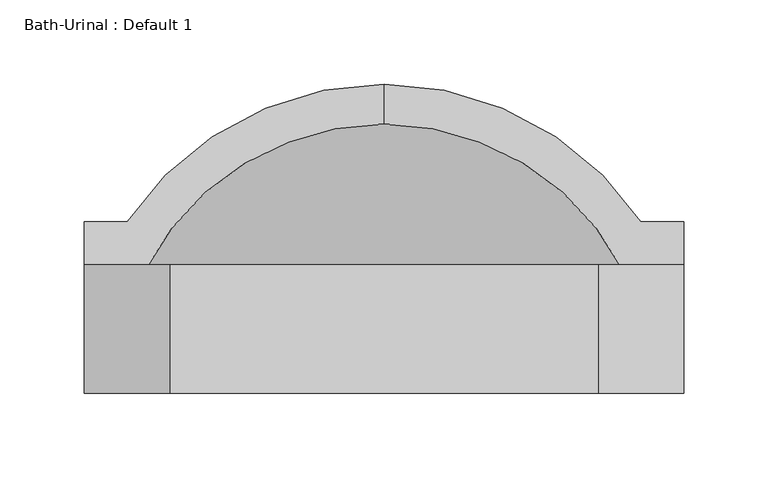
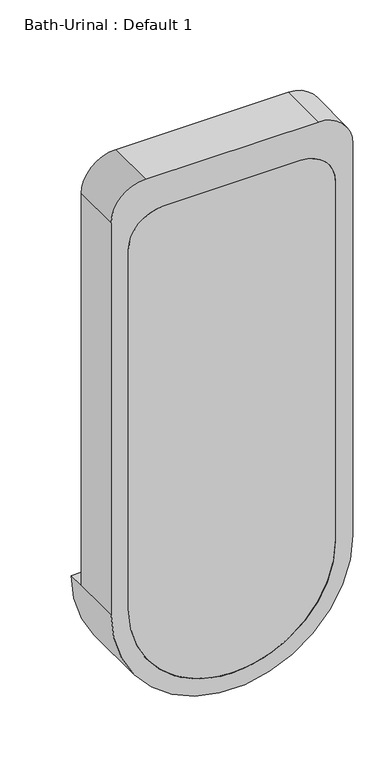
"""IFC4 building model written with IfcOpenShell, lengths in millimetres: flow terminal geometry, Bath-Urinal : Default 1."""

from ifc_helpers import new_model, si_unit, point, frame, frame_2d, origin, place, context, project, spatial, polyline, circle_curve, ellipse_curve, trimmed, segment, composite_curve, outline, extrude, source, transform, mapped, element, save
from ifc_brep_helpers import plane_surface, cylinder_surface, revolved_surface, advanced_brep


def bath_urinal_default_1_75978a72(model_context):
    return source(origin(), model_context, "Body", "SolidModel", [
        advanced_brep(
        [(-109.0745999, 240.3120048, 610.0), (-109.0745999, 216.5947043, 610.0), (43.3254001, 104.0206063, 610.0), (43.3254001, 133.35, 610.0), (68.7254001, 133.35, 610.0), (68.7254001, 158.75, 610.0), (43.3254001, 158.75, 610.0), (-261.4745999, 158.75, 610.0), (-286.8745999, 158.75, 610.0), (-286.8745999, 133.35, 610.0), (-261.4745999, 133.35, 610.0), (-261.4745999, 104.0206063, 610.0), (-261.4745999, 57.15, 610.0), (43.3254001, 57.15, 610.0), (-286.8745999, 57.15, 610.0), (68.7254001, 57.15, 610.0), (68.7254001, 57.15, 1219.6), (17.9254001, 57.15, 1270.4), (-236.0745999, 57.15, 1270.4), (-286.8745999, 57.15, 1219.6), (-261.4745999, 57.15, 1168.8), (-210.6745999, 57.15, 1219.6), (-7.4745999, 57.15, 1219.6), (43.3254001, 57.15, 1168.8), (43.3254001, 133.35, 1168.8), (-7.4745999, 133.35, 1219.6), (-210.6745999, 133.35, 1219.6), (-261.4745999, 133.35, 1168.8), (-286.8745999, 133.35, 1219.6), (-236.0745999, 133.35, 1270.4), (17.9254001, 133.35, 1270.4), (68.7254001, 133.35, 1219.6)],
        [
            (0, 1),
            (1, 2, circle_curve(frame((-109.0745999, 57.15, 610.0), z_axis=(0.0, 0.0, -1.0), x_axis=(1.0, 0.0, 0.0)), 159.4447043)),
            (2, 3),
            (3, 4),
            (4, 5),
            (5, 6),
            (6, 0, circle_curve(frame((-109.0745999, 57.15, 610.0), z_axis=(0.0, 0.0, 1.0), x_axis=(1.0, 0.0, 0.0)), 183.1620048)),
            (0, 7, circle_curve(frame((-109.0745999, 57.15, 610.0), z_axis=(0.0, 0.0, 1.0), x_axis=(-1.0, 0.0, 0.0)), 183.1620048)),
            (7, 8),
            (8, 9),
            (9, 10),
            (10, 11),
            (11, 1, circle_curve(frame((-109.0745999, 57.15, 610.0), z_axis=(0.0, 0.0, -1.0), x_axis=(-1.0, 0.0, 0.0)), 159.4447043)),
            (11, 2, circle_curve(frame((-109.0745999, 104.0206063, 610.0), z_axis=(0.0, -1.0, 0.0), x_axis=(1.0, 0.0, 0.0)), 152.4)),
            (11, 12),
            (12, 13, circle_curve(frame((-109.0745999, 57.15, 610.0), z_axis=(0.0, -1.0, 0.0), x_axis=(1.0, 0.0, 0.0)), 152.4)),
            (13, 2),
            (14, 15, circle_curve(frame((-109.0745999, 57.15, 610.0), z_axis=(0.0, -1.0, 0.0), x_axis=(1.0, 0.0, 0.0)), 177.8)),
            (15, 16),
            (16, 17, circle_curve(frame((17.9254001, 57.15, 1219.6), z_axis=(0.0, -1.0, 0.0), x_axis=(-1.0, 0.0, 0.0)), 50.8)),
            (17, 18),
            (18, 19, circle_curve(frame((-236.0745999, 57.15, 1219.6), z_axis=(0.0, -1.0, 0.0), x_axis=(-1.0, 0.0, 0.0)), 50.8)),
            (19, 14),
            (12, 20),
            (20, 21, circle_curve(frame((-210.6745999, 57.15, 1168.8), z_axis=(0.0, 1.0, 0.0), x_axis=(-1.0, 0.0, 0.0)), 50.8)),
            (21, 22),
            (22, 23, circle_curve(frame((-7.4745999, 57.15, 1168.8), z_axis=(0.0, 1.0, 0.0), x_axis=(-1.0, 0.0, 0.0)), 50.8)),
            (23, 13),
            (14, 9),
            (8, 5, circle_curve(frame((-109.0745999, 158.75, 610.0), z_axis=(0.0, -1.0, 0.0), x_axis=(1.0, 0.0, 0.0)), 177.8)),
            (4, 15),
            (7, 6, circle_curve(frame((-109.0745999, 158.75, 610.0), z_axis=(0.0, -1.0, 0.0), x_axis=(1.0, 0.0, 0.0)), 152.4)),
            (3, 24),
            (24, 25, circle_curve(frame((-7.4745999, 133.35, 1168.8), z_axis=(0.0, -1.0, 0.0), x_axis=(-1.0, 0.0, 0.0)), 50.8)),
            (25, 26),
            (26, 27, circle_curve(frame((-210.6745999, 133.35, 1168.8), z_axis=(0.0, -1.0, 0.0), x_axis=(-1.0, 0.0, 0.0)), 50.8)),
            (27, 10),
            (9, 28),
            (28, 29, circle_curve(frame((-236.0745999, 133.35, 1219.6), z_axis=(0.0, 1.0, 0.0), x_axis=(-1.0, 0.0, 0.0)), 50.8)),
            (29, 30),
            (30, 31, circle_curve(frame((17.9254001, 133.35, 1219.6), z_axis=(0.0, 1.0, 0.0), x_axis=(-1.0, 0.0, 0.0)), 50.8)),
            (31, 4),
            (23, 24),
            (22, 25),
            (21, 26),
            (20, 27),
            (19, 28),
            (18, 29),
            (17, 30),
            (16, 31),
        ],
        [
            plane_surface(frame((-109.0745999, 346.3604173, 610.0), z_axis=(0.0, 0.0, 1.0), x_axis=(1.0, 0.0, 0.0))),
            plane_surface(frame((-109.0745999, 346.3604173, 610.0), z_axis=(0.0, 0.0, 1.0), x_axis=(-1.0, 0.0, 0.0))),
            revolved_surface(trimmed(ellipse_curve(frame((-109.0745999, 57.15, 610.0), z_axis=(0.0, 0.0, -1.0), x_axis=(1.0, 0.0, 0.0)), 159.4447043, 159.4447043), [point((-109.0745999, 216.5947043, 610.0))], [point((43.3254001, 104.0206063, 610.0))], True, "CARTESIAN"), (-109.0745999, 346.3604173, 610.0), (0.0, 1.0, 0.0)),
            revolved_surface(polyline([(43.32540010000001, 104.0206063, 610.0), (43.32540010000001, 57.14999999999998, 610.0)]), (-109.0745999, 346.3604173, 610.0), (0.0, 1.0, 0.0)),
            plane_surface(frame((-109.0745999, 57.15, 610.0), z_axis=(0.0, -1.0, 0.0), x_axis=(1.0, 0.0, 0.0))),
            cylinder_surface(frame((-109.0745999, 346.3604173, 610.0), z_axis=(0.0, 1.0, 0.0), x_axis=(1.0, 0.0, 0.0)), 177.8),
            plane_surface(frame((-109.0745999, 158.75, 610.0), z_axis=(0.0, 1.0, 0.0), x_axis=(1.0, 0.0, 0.0))),
            revolved_surface(trimmed(ellipse_curve(frame((-109.0745999, 57.15, 610.0), z_axis=(0.0, 0.0, 1.0), x_axis=(1.0, 0.0, 0.0)), 183.1620048, 183.1620048), [point((43.3254001, 158.75, 610.0))], [point((-109.0745999, 240.3120048, 610.0))], True, "CARTESIAN"), (-109.0745999, 346.3604173, 610.0), (0.0, 1.0, 0.0)),
            plane_surface(frame((43.3254001, 133.35, 610.0), z_axis=(0.0, 1.0, 0.0), x_axis=(0.0, 0.0, 1.0))),
            plane_surface(frame((43.3254001, 133.35, 610.0), z_axis=(-1.0, 0.0, 0.0), x_axis=(0.0, -1.0, 0.0))),
            revolved_surface(polyline([(-58.2745999, 57.15, 1168.8), (-58.2745999, 133.35, 1168.8)]), (-7.4745999, 57.15, 1168.8), (0.0, -1.0, 0.0)),
            plane_surface(frame((-7.4745999, 133.35, 1219.6), z_axis=(0.0, 0.0, -1.0), x_axis=(0.0, -1.0, 0.0))),
            revolved_surface(polyline([(-261.4745999, 57.15, 1168.8), (-261.4745999, 133.35, 1168.8)]), (-210.6745999, 57.15, 1168.8), (0.0, -1.0, 0.0)),
            plane_surface(frame((-261.4745999, 133.35, 1168.8), z_axis=(1.0, 0.0, 0.0), x_axis=(0.0, -1.0, 0.0))),
            plane_surface(frame((-286.8745999, 133.35, 610.0), z_axis=(-1.0, 0.0, 0.0), x_axis=(0.0, -1.0, 0.0))),
            cylinder_surface(frame((-236.0745999, 57.15, 1219.6), z_axis=(0.0, 1.0, 0.0), x_axis=(-1.0, 0.0, 0.0)), 50.8),
            plane_surface(frame((-236.0745999, 133.35, 1270.4), z_axis=(0.0, 0.0, 1.0), x_axis=(0.0, -1.0, 0.0))),
            cylinder_surface(frame((17.9254001, 57.15, 1219.6), z_axis=(0.0, 1.0, 0.0), x_axis=(-1.0, 0.0, 0.0)), 50.8),
            plane_surface(frame((68.7254001, 133.35, 1219.6), z_axis=(1.0, 0.0, 0.0), x_axis=(0.0, -1.0, 0.0))),
        ],
        [
            (0, [[1, 2, 3, 4, 5, 6, 7]]),
            (1, [[-1, 8, 9, 10, 11, 12, 13]]),
            (2, [[-2, -13, 14]]),
            (3, [[-14, 15, 16, 17]]),
            (4, [[18, 19, 20, 21, 22, 23], [-16, 24, 25, 26, 27, 28]]),
            (5, [[-18, 29, -10, 30, -5, 31]]),
            (6, [[-6, -30, -9, 32]]),
            (7, [[-7, -32, -8]]),
            (8, [[33, 34, 35, 36, 37, -11, 38, 39, 40, 41, 42, -4]]),
            (9, [[-33, -3, -17, -28, 43]]),
            (10, [[-34, -43, -27, 44]]),
            (11, [[-35, -44, -26, 45]]),
            (12, [[-36, -45, -25, 46]]),
            (13, [[-37, -46, -24, -15, -12]]),
            (14, [[-38, -29, -23, 47]]),
            (15, [[-39, -47, -22, 48]]),
            (16, [[-40, -48, -21, 49]]),
            (17, [[-41, -49, -20, 50]]),
            (18, [[-42, -50, -19, -31]]),
        ],
    ),
        extrude(outline(composite_curve([segment(trimmed(circle_curve(frame_2d((1168.8, -7.4745999)), 50.8), [point((1168.8, 43.3254001))], [point((1219.6, -7.4745999))], False, "CARTESIAN"), True, "CONTINUOUS"), segment(polyline([(1219.6, -7.4745999), (1219.6, -210.6745999)]), True, "CONTINUOUS"), segment(trimmed(circle_curve(frame_2d((1168.8, -210.6745999)), 50.8), [point((1219.6, -210.6745999))], [point((1168.8, -261.4745999))], False, "CARTESIAN"), True, "CONTINUOUS"), segment(polyline([(1168.8, -261.4745999), (610.0, -261.4745999)]), True, "CONTINUOUS"), segment(trimmed(circle_curve(frame_2d((610.0, -109.0745999)), 152.4), [point((610.0, -261.4745999))], [point((610.0, 43.3254001))], False, "CARTESIAN"), True, "CONTINUOUS"), segment(polyline([(610.0, 43.3254001), (1168.8, 43.3254001)]), True, "CONTINUOUS")], self_intersect=False)), frame((0.0, 57.15, 0.0), z_axis=(0.0, 1.0, 0.0), x_axis=(0.0, 0.0, 1.0)), (0.0, 0.0, 1.0), 12.7),
    ])


if __name__ == "__main__":
    model = new_model("IFC4")
    model_context = context("Model", 3, world=origin())
    ifc_project = project(units=[si_unit("LENGTHUNIT", "METRE", prefix="MILLI")], contexts=[model_context])
    site = spatial("IfcSite", under=ifc_project)
    building = spatial("IfcBuilding", under=site)
    placement = place(None, origin())
    bath_urinal_default_1_shape = bath_urinal_default_1_75978a72(model_context)
    element("IfcFlowTerminal", 1, ObjectType="Bath-Urinal : Default 1", at=placement, inside=building, context=model_context, shape_type="MappedRepresentation", body=[
        mapped(bath_urinal_default_1_shape, transform((0.0, 0.0, 0.0), x_axis=(1.0, 0.0, 0.0), y_axis=(0.0, 1.0, 0.0), z_axis=(0.0, 0.0, 1.0))),
    ])
    save(model, "model.ifc")
